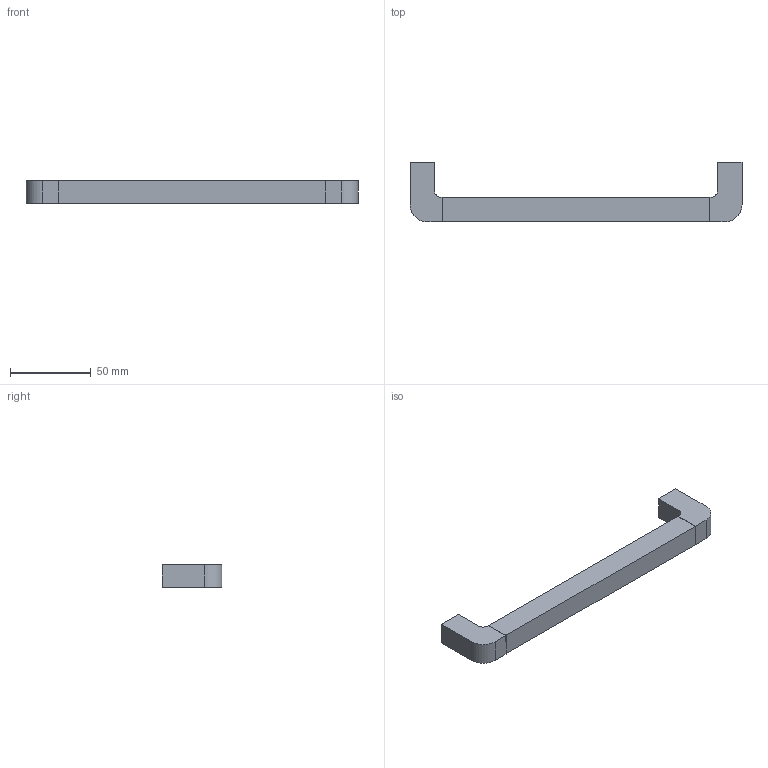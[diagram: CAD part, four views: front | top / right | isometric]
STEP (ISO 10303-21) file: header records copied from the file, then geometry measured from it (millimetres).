
FILE_DESCRIPTION( ( 'STEP AP214' ), '1' );
FILE_NAME( 'C:/Users/swati/Swati/Swati/modification/9207452/9207362.stp', ' ', ( ' ' ), ( ' ' ), 'PSStep 15.0.47', 'PARTsolutions', ' ' );
FILE_SCHEMA( ( 'AUTOMOTIVE_DESIGN { 1 0 10303 214 1 1 1 1 }' ) );
Length unit declared in the file: millimetre
Products named in the file (2): 95 ; _
Assembly tree (1 placements, depth 2):
  95 
    _
Bounding box: 206 x 37 x 14.2 mm (x, y, z)
Volume: 52128.7 mm3; surface area: 14930.5 mm2
Topology: 1 solids, 1 shells, 28 faces, 66 edges, 44 vertices
Faces by surface type: plane 22, cylinder 6
Full cylindrical faces by diameter (mm): 4 x2
Entity records: 1054 total; most frequent: CARTESIAN_POINT 138, DIRECTION 136, ORIENTED_EDGE 128, EDGE_CURVE 64, LINE 52, VECTOR 52, VERTEX_POINT 44, AXIS2_PLACEMENT_3D 42
